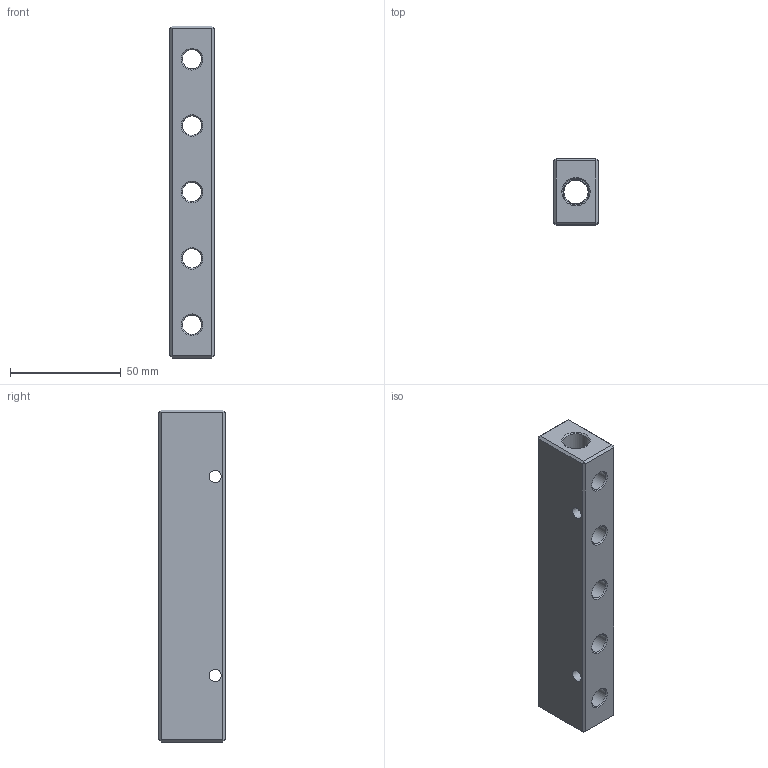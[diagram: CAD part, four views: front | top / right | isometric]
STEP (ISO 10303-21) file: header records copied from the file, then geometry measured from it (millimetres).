
FILE_DESCRIPTION(/* description */ (''),/* implementation_level */ '2;1');
FILE_NAME(/* name */ 'BXH90 2B2 10B1.stp',/* time_stamp */ '2024-11-19T12:36:26+01:00',/* author */ ('freju'),/* organization */ (''),/* preprocessor_version */ 'ST-DEVELOPER v20',/* originating_system */ 'Autodesk Inventor 2025',/* authorisation */ '');
FILE_SCHEMA (('AUTOMOTIVE_DESIGN { 1 0 10303 214 3 1 1 }'));
Length unit declared in the file: millimetre
Products named in the file (1): BXH90 2B2 10B1
Bounding box: 20 x 30 x 150 mm (x, y, z)
Volume: 67980.4 mm3; surface area: 22900.1 mm2
Topology: 1 solids, 1 shells, 55 faces, 124 edges, 73 vertices
Faces by surface type: plane 28, cylinder 15, cone 12
Full cylindrical faces by diameter (mm): 5.5 x2, 8.8 x10, 11 x1, 11.8 x2
Entity records: 1990 total; most frequent: CARTESIAN_POINT 663, DIRECTION 265, ORIENTED_EDGE 248, EDGE_CURVE 124, AXIS2_PLACEMENT_3D 95, EDGE_LOOP 83, LINE 75, VECTOR 75
